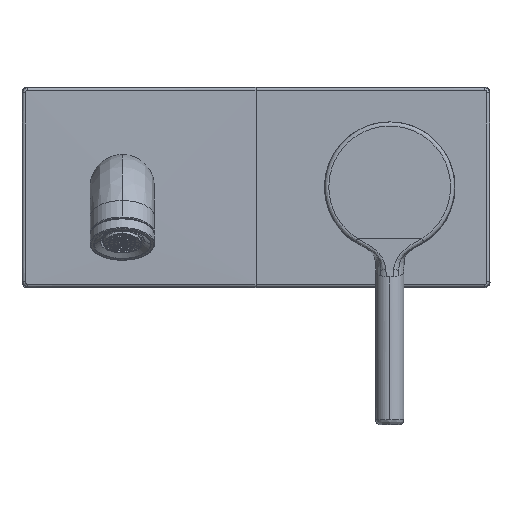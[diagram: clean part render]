
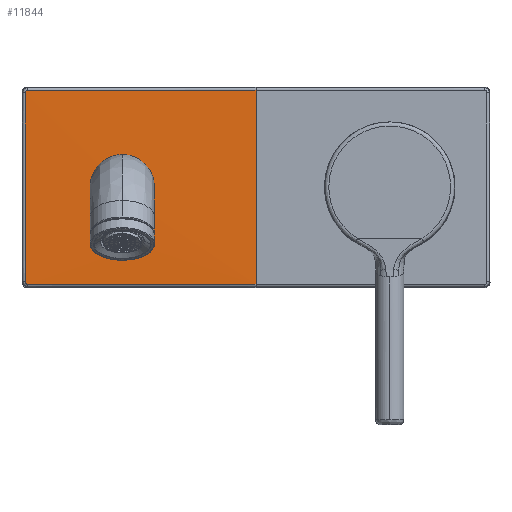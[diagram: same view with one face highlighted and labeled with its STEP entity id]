
A CAD part, top view. The second image highlights one B-rep face of the part: STEP entity #11844.
In plain terms, the highlighted free-form (B-spline) face has degree [2, 5] with [3, 6] control points.
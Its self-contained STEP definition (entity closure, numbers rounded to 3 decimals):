
#1097 = CARTESIAN_POINT ( 'NONE',  ( -50., 7.355, 12.078 ) ) ;
#4714 = CARTESIAN_POINT ( 'NONE',  ( -136.316, -35.315, 11.601 ) ) ;
#4794 = CARTESIAN_POINT ( 'NONE',  ( -136.316, 35.315, 11.601 ) ) ;
#5285 = CARTESIAN_POINT ( 'NONE',  ( -136.316, -35.629, 11.601 ) ) ;
#6224 = CARTESIAN_POINT ( 'NONE',  ( -136.316, -35.315, 11.601 ) ) ;
#11844 = ADVANCED_FACE ( 'NONE', ( #62868 ), #130019, .T. ) ;
#11999 = CARTESIAN_POINT ( 'NONE',  ( -93.421, -22.065, 11.921 ) ) ;
#12461 = CARTESIAN_POINT ( 'NONE',  ( -93.421, -36.771, 11.616 ) ) ;
#13011 = CARTESIAN_POINT ( 'NONE',  ( -135.316, 36.316, 11.601 ) ) ;
#15844 = ORIENTED_EDGE ( 'NONE', *, *, #133401, .T. ) ;
#17283 = ORIENTED_EDGE ( 'NONE', *, *, #94530, .F. ) ;
#22373 = CARTESIAN_POINT ( 'NONE',  ( -93.422, 7.356, 12.078 ) ) ;
#24397 = CARTESIAN_POINT ( 'NONE',  ( -50., 7.268, 12.077 ) ) ;
#24800 = CARTESIAN_POINT ( 'NONE',  ( -50., 36.335, 11.625 ) ) ;
#24873 = CARTESIAN_POINT ( 'NONE',  ( -78.415, -36.335, 11.625 ) ) ;
#28280 = VERTEX_POINT ( 'NONE', #73365 ) ;
#29276 = B_SPLINE_CURVE_WITH_KNOTS ( 'NONE', 5,
 ( #34714, #110845, #81740, #37046, #5285, #6224 ),
 .UNSPECIFIED., .F., .F.,
 ( 6, 6 ),
 ( 0., 1. ),
 .UNSPECIFIED. ) ;
#31913 = B_SPLINE_CURVE_WITH_KNOTS ( 'NONE', 3,
 ( #68549, #78613, #24873, #80490 ),
 .UNSPECIFIED., .F., .F.,
 ( 4, 4 ),
 ( 0., 1. ),
 .UNSPECIFIED. ) ;
#33301 = CARTESIAN_POINT ( 'NONE',  ( -50., 22.065, 11.921 ) ) ;
#34714 = CARTESIAN_POINT ( 'NONE',  ( -135.316, -36.316, 11.601 ) ) ;
#37046 = CARTESIAN_POINT ( 'NONE',  ( -136.192, -35.945, 11.601 ) ) ;
#37965 = CARTESIAN_POINT ( 'NONE',  ( -136.192, 35.945, 11.601 ) ) ;
#38402 = B_SPLINE_CURVE_WITH_KNOTS ( 'NONE', 5,
 ( #4794, #38444, #37965, #91715, #92640, #102206 ),
 .UNSPECIFIED., .F., .F.,
 ( 6, 6 ),
 ( 0., 1. ),
 .UNSPECIFIED. ) ;
#38444 = CARTESIAN_POINT ( 'NONE',  ( -136.316, 35.629, 11.601 ) ) ;
#41641 = CARTESIAN_POINT ( 'NONE',  ( -50., -36.335, 11.625 ) ) ;
#43856 = EDGE_CURVE ( 'NONE', #28280, #127866, #31913, .T. ) ;
#44680 = CARTESIAN_POINT ( 'NONE',  ( -136.842, -22.063, 11.605 ) ) ;
#45160 = CARTESIAN_POINT ( 'NONE',  ( -93.421, 22.065, 11.921 ) ) ;
#45427 = B_SPLINE_CURVE_WITH_KNOTS ( 'NONE', 3,
 ( #104373, #83424, #60577, #93866 ),
 .UNSPECIFIED., .F., .F.,
 ( 4, 4 ),
 ( 0., 1. ),
 .UNSPECIFIED. ) ;
#48240 = B_SPLINE_CURVE_WITH_KNOTS ( 'NONE', 5,
 ( #110533, #133254, #89077, #24397, #121467, #56253 ),
 .UNSPECIFIED., .F., .F.,
 ( 6, 6 ),
 ( 0., 1. ),
 .UNSPECIFIED. ) ;
#54216 = ORIENTED_EDGE ( 'NONE', *, *, #43856, .T. ) ;
#55344 = ORIENTED_EDGE ( 'NONE', *, *, #81567, .F. ) ;
#55649 = CARTESIAN_POINT ( 'NONE',  ( -93.421, 36.771, 11.616 ) ) ;
#56102 = CARTESIAN_POINT ( 'NONE',  ( -50., -7.355, 12.078 ) ) ;
#56253 = CARTESIAN_POINT ( 'NONE',  ( -50., 36.335, 11.625 ) ) ;
#60577 = CARTESIAN_POINT ( 'NONE',  ( -136.326, -11.771, 11.614 ) ) ;
#62868 = FACE_OUTER_BOUND ( 'NONE', #71699, .T. ) ;
#65592 = CARTESIAN_POINT ( 'NONE',  ( -136.842, -36.771, 11.6 ) ) ;
#65639 = VERTEX_POINT ( 'NONE', #117677 ) ;
#66508 = CARTESIAN_POINT ( 'NONE',  ( -93.422, -7.356, 12.078 ) ) ;
#66974 = CARTESIAN_POINT ( 'NONE',  ( -136.842, -7.354, 11.607 ) ) ;
#68549 = CARTESIAN_POINT ( 'NONE',  ( -135.316, -36.316, 11.601 ) ) ;
#69425 = CARTESIAN_POINT ( 'NONE',  ( -78.415, 36.335, 11.625 ) ) ;
#71699 = EDGE_LOOP ( 'NONE', ( #79586, #17283, #15844, #55344, #54216, #118926 ) ) ;
#73365 = CARTESIAN_POINT ( 'NONE',  ( -135.316, -36.316, 11.601 ) ) ;
#74019 = EDGE_CURVE ( 'NONE', #84241, #89608, #139299, .T. ) ;
#76600 = CARTESIAN_POINT ( 'NONE',  ( -136.842, 22.063, 11.605 ) ) ;
#77062 = CARTESIAN_POINT ( 'NONE',  ( -50., -36.771, 11.616 ) ) ;
#78613 = CARTESIAN_POINT ( 'NONE',  ( -106.854, -36.329, 11.617 ) ) ;
#79586 = ORIENTED_EDGE ( 'NONE', *, *, #74019, .T. ) ;
#80490 = CARTESIAN_POINT ( 'NONE',  ( -50., -36.335, 11.625 ) ) ;
#81567 = EDGE_CURVE ( 'NONE', #28280, #130745, #29276, .T. ) ;
#81740 = CARTESIAN_POINT ( 'NONE',  ( -135.945, -36.192, 11.601 ) ) ;
#83424 = CARTESIAN_POINT ( 'NONE',  ( -136.326, 11.773, 11.614 ) ) ;
#84241 = VERTEX_POINT ( 'NONE', #126136 ) ;
#88012 = CARTESIAN_POINT ( 'NONE',  ( -136.842, 36.771, 11.6 ) ) ;
#88839 = EDGE_CURVE ( 'NONE', #127866, #84241, #48240, .T. ) ;
#88995 = CARTESIAN_POINT ( 'NONE',  ( -106.854, 36.329, 11.617 ) ) ;
#89077 = CARTESIAN_POINT ( 'NONE',  ( -50., -7.268, 12.077 ) ) ;
#89391 = CARTESIAN_POINT ( 'NONE',  ( -50., 36.771, 11.616 ) ) ;
#89608 = VERTEX_POINT ( 'NONE', #113157 ) ;
#91715 = CARTESIAN_POINT ( 'NONE',  ( -135.945, 36.192, 11.601 ) ) ;
#92640 = CARTESIAN_POINT ( 'NONE',  ( -135.629, 36.316, 11.601 ) ) ;
#93866 = CARTESIAN_POINT ( 'NONE',  ( -136.316, -35.315, 11.601 ) ) ;
#94530 = EDGE_CURVE ( 'NONE', #65639, #89608, #38402, .T. ) ;
#102206 = CARTESIAN_POINT ( 'NONE',  ( -135.316, 36.316, 11.601 ) ) ;
#104373 = CARTESIAN_POINT ( 'NONE',  ( -136.316, 35.315, 11.601 ) ) ;
#110533 = CARTESIAN_POINT ( 'NONE',  ( -50., -36.335, 11.625 ) ) ;
#110845 = CARTESIAN_POINT ( 'NONE',  ( -135.629, -36.316, 11.601 ) ) ;
#113157 = CARTESIAN_POINT ( 'NONE',  ( -135.316, 36.316, 11.601 ) ) ;
#117677 = CARTESIAN_POINT ( 'NONE',  ( -136.316, 35.315, 11.601 ) ) ;
#118926 = ORIENTED_EDGE ( 'NONE', *, *, #88839, .T. ) ;
#121467 = CARTESIAN_POINT ( 'NONE',  ( -50., 21.803, 11.923 ) ) ;
#126136 = CARTESIAN_POINT ( 'NONE',  ( -50., 36.335, 11.625 ) ) ;
#127866 = VERTEX_POINT ( 'NONE', #41641 ) ;
#130019 = B_SPLINE_SURFACE_WITH_KNOTS ( 'NONE', 2, 5, ( 
 ( #89391, #33301, #1097, #56102, #131718, #77062 ),
 ( #55649, #45160, #22373, #66508, #11999, #12461 ),
 ( #88012, #76600, #132201, #66974, #44680, #65592 ) ),
 .UNSPECIFIED., .F., .F., .F.,
 ( 3, 3 ),
 ( 6, 6 ),
 ( 0., 1. ),
 ( 0., 1. ),
 .UNSPECIFIED. ) ;
#130745 = VERTEX_POINT ( 'NONE', #4714 ) ;
#131718 = CARTESIAN_POINT ( 'NONE',  ( -50., -22.065, 11.921 ) ) ;
#132201 = CARTESIAN_POINT ( 'NONE',  ( -136.842, 7.354, 11.607 ) ) ;
#133254 = CARTESIAN_POINT ( 'NONE',  ( -50., -21.803, 11.923 ) ) ;
#133401 = EDGE_CURVE ( 'NONE', #65639, #130745, #45427, .T. ) ;
#139299 = B_SPLINE_CURVE_WITH_KNOTS ( 'NONE', 3,
 ( #24800, #69425, #88995, #13011 ),
 .UNSPECIFIED., .F., .F.,
 ( 4, 4 ),
 ( 0., 1. ),
 .UNSPECIFIED. ) ;
